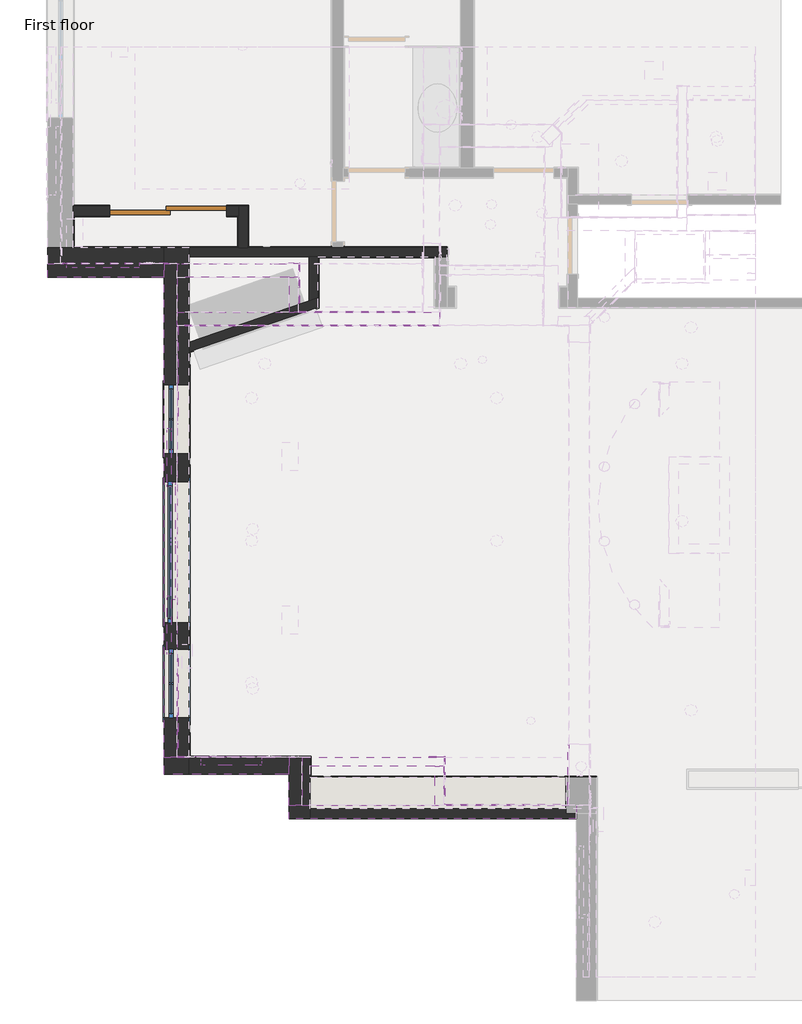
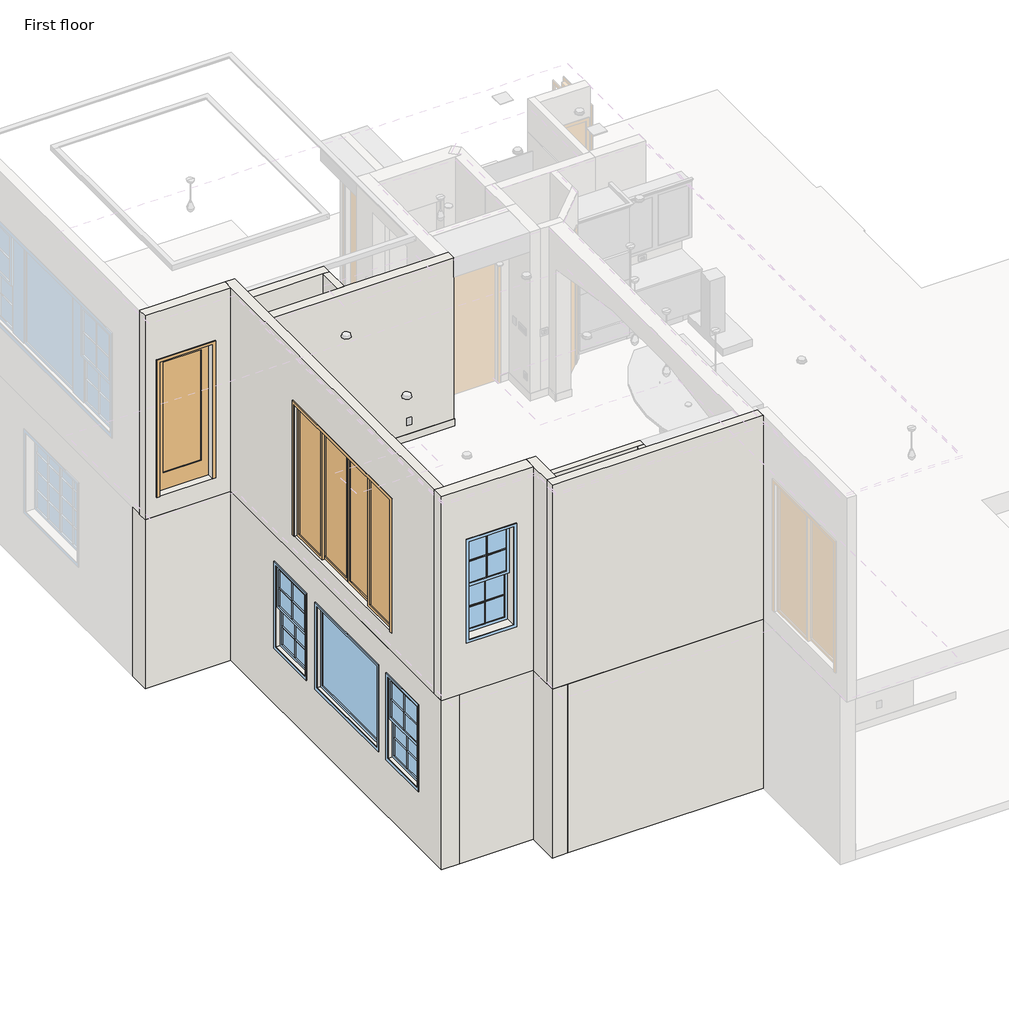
# One storey, part 1 of 14: 55 walls, 4 windows, 3 doors.
"""IFC4 building model written with IfcOpenShell, lengths in millimetres."""

from ifc_helpers import new_model, si_unit, frame, origin, origin_with_axes, place, context, project, spatial, polyline, outline, extrude, faceted_brep, transform, mapped, element, save
from components import door_78e68b44, door_06ff4b2b, door_72025155, window_5e81ba09, window_08d0ea66, window_1576a52d, window_3ec4ada6

model = new_model("IFC4")

# Units and contexts
model_context = context("Model", 3, world=origin())
ifc_project = project(units=[si_unit("LENGTHUNIT", "METRE", prefix="MILLI")], contexts=[model_context])

# Site, building, storey
site = spatial("IfcSite", under=ifc_project)
building = spatial("IfcBuilding", under=site)
storey = spatial("IfcBuildingStorey", under=building, Name="First floor", Elevation=0.0)

# Doors
placement = place(None, origin())
door_shape = door_78e68b44(model_context)
element("IfcDoor", 1, ObjectType="Door_2 : 3'-0\" X 8'-0\"", at=placement, inside=storey, context=model_context, shape_type="MappedRepresentation", body=[
    mapped(door_shape, transform((-5962.65, 9547.225, 3251.2), x_axis=(-1.0, 0.0, 0.0), y_axis=(0.0, -1.0, 0.0), z_axis=(0.0, 0.0, 1.0))),
])
door_2_shape = door_06ff4b2b(model_context)
element("IfcDoor", 2, ObjectType="Door_3 : 9'-4\" X 7'-10\"", at=placement, inside=storey, context=model_context, shape_type="MappedRepresentation", body=[
    mapped(door_2_shape, transform((-4984.75, 6134.1, 3251.2), x_axis=(0.0, 1.0, 0.0), y_axis=(-1.0, 0.0, 0.0), z_axis=(0.0, 0.0, 1.0))),
])
door_3_shape = door_72025155(model_context)
element("IfcDoor", 3, ObjectType="Door_7 : 4'-10\" X 8'-0\"", at=placement, inside=storey, context=model_context, shape_type="MappedRepresentation", body=[
    mapped(door_3_shape, transform((-5143.5, 10420.35, 0.0), x_axis=(1.0, 0.0, 0.0), y_axis=(0.0, 1.0, 0.0), z_axis=(0.0, 0.0, 1.0))),
])

# Walls
element("IfcWall", 4, ObjectType="Wall Border_T1", at=placement, inside=storey, context=model_context, shape_type="Brep", body=[
    faceted_brep([(-3352.8000001, 3174.9999999, 0.0), (-3352.8000001, 3174.9999999, 127.0), (-3340.1000001, 3174.9999999, 127.0), (254.0000001, 3174.9999999, 127.0), (254.0000001, 3174.9999999, 0.0), (-3340.1000001, 3174.9999999, 0.0), (-3352.8000001, 3162.2999999, 127.0), (-3352.8000001, 3162.2999999, 0.0), (254.0000001, 3162.2999999, 0.0), (254.0000001, 3162.2999999, 127.0)], [[[0, 1, 2, 3, 4, 5]], [[6, 7, 8, 9]], [[7, 0, 5, 4, 8]], [[1, 0, 7, 6]], [[1, 6, 9, 3, 2]], [[4, 3, 9, 8]]]),
])
element("IfcWall", 5, ObjectType="Wall Border_T1", at=placement, inside=storey, context=model_context, shape_type="SweptSolid", body=[
    extrude(outline(polyline([(-3340.1000001, 3174.9999999), (-3352.8000001, 3174.9999999), (-3352.8000001, 3416.2999999), (-3340.1000001, 3416.2999999), (-3340.1000001, 3174.9999999)])), origin_with_axes(), (0.0, 0.0, 1.0), 127.0),
])
element("IfcWall", 6, ObjectType="Wall Border_T1", at=placement, inside=storey, context=model_context, shape_type="Brep", body=[
    faceted_brep([(-3340.1000001, 3428.9999999, 0.0), (-4864.1000001, 3428.9999999, 0.0), (-4864.1000001, 3428.9999999, 127.0), (-3340.1000001, 3428.9999999, 127.0), (-3340.1000001, 3416.2999999, 0.0), (-3340.1000001, 3416.2999999, 127.0), (-3352.8000001, 3416.2999999, 127.0), (-4864.1000001, 3416.2999999, 127.0), (-4864.1000001, 3416.2999999, 0.0), (-3352.8000001, 3416.2999999, 0.0)], [[[0, 1, 2, 3]], [[4, 5, 6, 7, 8, 9]], [[1, 0, 4, 9, 8]], [[2, 1, 8, 7]], [[3, 2, 7, 6, 5]], [[0, 3, 5, 4]]]),
])
element("IfcWall", 7, ObjectType="Wall Border_T1", at=placement, inside=storey, context=model_context, shape_type="SweptSolid", body=[
    extrude(outline(polyline([(-1790.7, 9702.8), (-3238.5, 9702.8), (-3238.5, 9715.5), (-1790.7, 9715.5), (-1790.7, 9702.8)])), origin_with_axes(), (0.0, 0.0, 1.0), 127.0),
])
element("IfcWall", 8, ObjectType="Wall Border_T1", at=placement, inside=storey, context=model_context, shape_type="SweptSolid", body=[
    extrude(outline(polyline([(-2921.0, 9842.5), (-1625.6, 9842.5), (-1625.6, 9829.8), (-2921.0, 9829.8), (-2921.0, 9842.5)])), origin_with_axes(), (0.0, 0.0, 1.0), 127.0),
])
element("IfcWall", 9, ObjectType="Wall Border_T1", at=placement, inside=storey, context=model_context, shape_type="Brep", body=[
    faceted_brep([(-2921.0, 9829.8, 0.0), (-2921.0, 9842.5, 0.0), (-2921.0, 9855.2, 0.0), (-2921.0, 9855.2, 127.0), (-2921.0, 9842.5, 127.0), (-2921.0, 9829.8, 127.0), (-2933.7, 9829.8, 0.0), (-2933.7, 9829.8, 127.0), (-2933.7, 9855.2, 127.0), (-2933.7, 9855.2, 0.0)], [[[0, 1, 2, 3, 4, 5]], [[6, 7, 8, 9]], [[2, 1, 0, 6, 9]], [[3, 2, 9, 8]], [[5, 4, 3, 8, 7]], [[0, 5, 7, 6]]]),
])
element("IfcWall", 10, ObjectType="Wall Border_T1", at=placement, inside=storey, context=model_context, shape_type="Brep", body=[
    faceted_brep([(-3251.2, 9715.5, 0.0), (-3251.2, 9080.5, 0.0), (-3251.2, 9080.5, 127.0), (-3251.2, 9715.5, 127.0), (-3238.5, 9715.5, 0.0), (-3238.5, 9715.5, 127.0), (-3238.5, 9702.8, 127.0), (-3238.5, 9084.865625, 127.0), (-3238.5, 9084.865625, 0.0), (-3238.5, 9702.8, 0.0)], [[[0, 1, 2, 3]], [[4, 5, 6, 7, 8, 9]], [[1, 0, 4, 9, 8]], [[3, 2, 7, 6, 5]], [[0, 3, 5, 4]], [[2, 1, 8, 7]]]),
])
element("IfcWall", 11, ObjectType="Wall Border_T1", at=placement, inside=storey, context=model_context, shape_type="Brep", body=[
    faceted_brep([(-3238.5, 9084.865625, 0.0), (-3251.2, 9080.5, 0.0), (-3281.2137633, 9070.1827689, 0.0), (-3281.2137633, 9070.1827689, 127.0), (-3251.2, 9080.5, 127.0), (-3238.5, 9084.865625, 127.0), (-3238.5, 9071.4362288, 0.0), (-3238.5, 9071.4362288, 127.0), (-3277.0852503, 9058.172549, 127.0), (-3277.0852503, 9058.172549, 0.0)], [[[0, 1, 2, 3, 4, 5]], [[6, 7, 8, 9]], [[2, 1, 0, 6, 9]], [[3, 2, 9, 8]], [[5, 4, 3, 8, 7]], [[0, 5, 7, 6]]]),
])
element("IfcWall", 12, ObjectType="Wall Border_T1", at=placement, inside=storey, context=model_context, shape_type="Brep", body=[
    faceted_brep([(-4818.5218992, 8541.7330972, 0.0), (-4876.8, 8521.7, 0.0), (-4876.8, 8521.7, 127.0), (-4818.5218992, 8541.7330972, 127.0), (-4814.3933861, 8529.7228773, 0.0), (-4814.3933861, 8529.7228773, 127.0), (-4864.1, 8512.6362288, 127.0), (-4876.8, 8508.2706038, 127.0), (-4876.8, 8508.2706038, 0.0), (-4864.1, 8512.6362288, 0.0)], [[[0, 1, 2, 3]], [[4, 5, 6, 7, 8, 9]], [[1, 0, 4, 9, 8]], [[3, 2, 7, 6, 5]], [[0, 3, 5, 4]], [[2, 1, 8, 7]]]),
])
element("IfcWall", 13, ObjectType="Wall Border_T1", at=placement, inside=storey, context=model_context, shape_type="Brep", body=[
    faceted_brep([(-4876.8, 3416.3, 0.0), (-4876.8, 3416.3, 127.0), (-4876.8, 8508.2706038, 127.0), (-4876.8, 8508.2706038, 0.0), (-4864.1, 3416.3, 127.0), (-4864.1, 3416.3, 0.0), (-4864.1, 3428.9999999, 0.0), (-4864.1, 8512.6362288, 0.0), (-4864.1, 8512.6362288, 127.0), (-4864.1, 3428.9999999, 127.0)], [[[0, 1, 2, 3]], [[4, 5, 6, 7, 8, 9]], [[5, 0, 3, 7, 6]], [[1, 4, 9, 8, 2]], [[1, 0, 5, 4]], [[3, 2, 8, 7]]]),
])
element("IfcWall", 14, ObjectType="Wall Border_T1", at=placement, inside=storey, context=model_context, shape_type="Brep", body=[
    faceted_brep([(-4254.5, 9829.8, 0.0), (-4254.5, 9829.8, 127.0), (-6324.6, 9829.8, 127.0), (-6324.6, 9829.8, 0.0), (-4254.5, 9842.5, 127.0), (-4254.5, 9842.5, 0.0), (-4267.2, 9842.5, 0.0), (-6324.6, 9842.5, 0.0), (-6324.6, 9842.5, 127.0), (-4267.2, 9842.5, 127.0)], [[[0, 1, 2, 3]], [[4, 5, 6, 7, 8, 9]], [[5, 0, 3, 7, 6]], [[1, 4, 9, 8, 2]], [[1, 0, 5, 4]], [[3, 2, 8, 7]]]),
])
element("IfcWall", 15, ObjectType="Wall Border_T1", at=placement, inside=storey, context=model_context, shape_type="SweptSolid", body=[
    extrude(outline(polyline([(-4267.2, 10223.5), (-4254.5, 10223.5), (-4254.5, 9842.5), (-4267.2, 9842.5), (-4267.2, 10223.5)])), origin_with_axes(), (0.0, 0.0, 1.0), 127.0),
])
element("IfcWall", 16, ObjectType="Wall Border_T1", at=placement, inside=storey, context=model_context, shape_type="Brep", body=[
    faceted_brep([(-4349.75, 10223.5, 0.0), (-4267.2, 10223.5, 0.0), (-4254.5, 10223.5, 0.0), (-4254.5, 10223.5, 127.0), (-4267.2, 10223.5, 127.0), (-4349.75, 10223.5, 127.0), (-4349.75, 10236.2, 0.0), (-4349.75, 10236.2, 127.0), (-4254.5, 10236.2, 127.0), (-4254.5, 10236.2, 0.0)], [[[0, 1, 2, 3, 4, 5]], [[6, 7, 8, 9]], [[2, 1, 0, 6, 9]], [[5, 4, 3, 8, 7]], [[0, 5, 7, 6]], [[3, 2, 9, 8]]]),
])
element("IfcWall", 17, ObjectType="Wall Border_T1", at=placement, inside=storey, context=model_context, shape_type="SweptSolid", body=[
    extrude(outline(polyline([(-6324.6, 10236.2), (-5937.25, 10236.2), (-5937.25, 10223.5), (-6324.6, 10223.5), (-6324.6, 10236.2)])), origin_with_axes(), (0.0, 0.0, 1.0), 127.0),
])
element("IfcWall", 18, ObjectType="Wall Border_T1", at=placement, inside=storey, context=model_context, shape_type="SweptSolid", body=[
    extrude(outline(polyline([(-5930.9, 10350.5), (-6324.6, 10350.5), (-6324.6, 10363.2), (-5930.9, 10363.2), (-5930.9, 10350.5)])), origin_with_axes(), (0.0, 0.0, 1.0), 127.0),
])
element("IfcWall", 19, ObjectType="Wall Border_T1", at=placement, inside=storey, context=model_context, shape_type="Brep", body=[
    faceted_brep([(-6337.3, 10236.2, 0.0), (-6337.3, 9829.8, 0.0), (-6337.3, 9829.8, 127.0), (-6337.3, 10236.2, 127.0), (-6324.6, 10236.2, 0.0), (-6324.6, 10236.2, 127.0), (-6324.6, 10223.5, 127.0), (-6324.6, 9842.5, 127.0), (-6324.6, 9829.8, 127.0), (-6324.6, 9829.8, 0.0), (-6324.6, 9842.5, 0.0), (-6324.6, 10223.5, 0.0)], [[[0, 1, 2, 3]], [[4, 5, 6, 7, 8, 9, 10, 11]], [[1, 0, 4, 11, 10, 9]], [[2, 1, 9, 8]], [[3, 2, 8, 7, 6, 5]], [[0, 3, 5, 4]]]),
])
element("IfcWall", 20, ObjectType="Wall Border_T1", at=placement, inside=storey, context=model_context, shape_type="SweptSolid", body=[
    extrude(outline(polyline([(-3086.1, 9855.2), (-3073.4, 9855.2), (-3073.4, 9842.5), (-3086.1, 9842.5), (-3086.1, 9855.2)])), origin_with_axes(), (0.0, 0.0, 1.0), 127.0),
])
element("IfcWall", 21, ObjectType="Wall Border_T1", at=placement, inside=storey, context=model_context, shape_type="Brep", body=[
    faceted_brep([(-3073.4, 9842.5, 127.0), (-3073.4, 9842.5, 0.0), (-3086.1, 9842.5, 0.0), (-4127.5, 9842.5, 0.0), (-4127.5, 9842.5, 127.0), (-3086.1, 9842.5, 127.0), (-3073.4, 9829.8, 0.0), (-3073.4, 9829.8, 127.0), (-4127.5, 9829.8, 127.0), (-4127.5, 9829.8, 0.0)], [[[0, 1, 2, 3, 4, 5]], [[6, 7, 8, 9]], [[1, 6, 9, 3, 2]], [[7, 0, 5, 4, 8]], [[1, 0, 7, 6]], [[4, 3, 9, 8]]]),
])
element("IfcWall", 22, ObjectType="Wall Border_T1", at=placement, inside=storey, context=model_context, shape_type="Brep", body=[
    faceted_brep([(-4127.5, 9829.8, 0.0), (-4127.5, 9842.5, 0.0), (-4127.5, 10350.5, 0.0), (-4127.5, 10350.5, 127.0), (-4127.5, 9842.5, 127.0), (-4127.5, 9829.8, 127.0), (-4140.2, 9829.8, 0.0), (-4140.2, 9829.8, 127.0), (-4140.2, 10350.5, 127.0), (-4140.2, 10350.5, 0.0)], [[[0, 1, 2, 3, 4, 5]], [[6, 7, 8, 9]], [[2, 1, 0, 6, 9]], [[3, 2, 9, 8]], [[5, 4, 3, 8, 7]], [[0, 5, 7, 6]]]),
])
element("IfcWall", 23, ObjectType="Wall Border_T1", at=placement, inside=storey, context=model_context, shape_type="Brep", body=[
    faceted_brep([(-4127.5, 10363.2, 0.0), (-4356.1, 10363.2, 0.0), (-4356.1, 10363.2, 127.0), (-4127.5, 10363.2, 127.0), (-4127.5, 10350.5, 0.0), (-4127.5, 10350.5, 127.0), (-4140.2, 10350.5, 127.0), (-4356.1, 10350.5, 127.0), (-4356.1, 10350.5, 0.0), (-4140.2, 10350.5, 0.0)], [[[0, 1, 2, 3]], [[4, 5, 6, 7, 8, 9]], [[1, 0, 4, 9, 8]], [[2, 1, 8, 7]], [[3, 2, 7, 6, 5]], [[0, 3, 5, 4]]]),
])
element("IfcWall", 24, ObjectType="Wall Border_T1", at=placement, inside=storey, context=model_context, shape_type="Brep", body=[
    faceted_brep([(-1936.75, 9029.7, 3251.2), (-3486.15, 9029.7, 3251.2), (-3498.85, 9029.7, 3251.2), (-3498.85, 9029.7, 3378.2), (-3486.15, 9029.7, 3378.2), (-1936.75, 9029.7, 3378.2), (-1936.75, 9017.0, 3251.2), (-1936.75, 9017.0, 3378.2), (-3498.85, 9017.0, 3378.2), (-3498.85, 9017.0, 3251.2)], [[[0, 1, 2, 3, 4, 5]], [[6, 7, 8, 9]], [[2, 1, 0, 6, 9]], [[5, 4, 3, 8, 7]], [[0, 5, 7, 6]], [[3, 2, 9, 8]]]),
])
element("IfcWall", 25, ObjectType="Wall Border_T1", at=placement, inside=storey, context=model_context, shape_type="SweptSolid", body=[
    extrude(outline(polyline([(-3486.15, 9626.6), (-3486.15, 9029.7), (-3498.85, 9029.7), (-3498.85, 9626.6), (-3486.15, 9626.6)])), frame((0.0, 0.0, 3251.2), z_axis=(0.0, 0.0, 1.0), x_axis=(1.0, 0.0, 0.0)), (0.0, 0.0, 1.0), 127.0),
])
element("IfcWall", 26, ObjectType="Wall Border_T1", at=placement, inside=storey, context=model_context, shape_type="Brep", body=[
    faceted_brep([(-3486.15, 9639.3, 3251.2), (-3625.8466234, 9639.3, 3251.2), (-3625.8466234, 9639.3, 3378.2), (-3486.15, 9639.3, 3378.2), (-3486.15, 9626.6, 3251.2), (-3486.15, 9626.6, 3378.2), (-3498.85, 9626.6, 3378.2), (-3625.8466234, 9626.6, 3378.2), (-3625.8466234, 9626.6, 3251.2), (-3498.85, 9626.6, 3251.2)], [[[0, 1, 2, 3]], [[4, 5, 6, 7, 8, 9]], [[1, 0, 4, 9, 8]], [[2, 1, 8, 7]], [[3, 2, 7, 6, 5]], [[0, 3, 5, 4]]]),
])
element("IfcWall", 27, ObjectType="Wall Border_T1", at=placement, inside=storey, context=model_context, shape_type="SweptSolid", body=[
    extrude(outline(polyline([(-6483.35, 9639.3), (-6470.65, 9639.3), (-6470.65, 9626.6), (-6483.35, 9626.6), (-6483.35, 9639.3)])), frame((0.0, 0.0, 3251.2), z_axis=(0.0, 0.0, 1.0), x_axis=(1.0, 0.0, 0.0)), (0.0, 0.0, 1.0), 127.0),
])
element("IfcWall", 28, ObjectType="Wall Border_T1", at=placement, inside=storey, context=model_context, shape_type="SweptSolid", body=[
    extrude(outline(polyline([(-5454.65, 9639.3), (-5048.2466234, 9639.3), (-5048.2466234, 9626.6), (-5454.65, 9626.6), (-5454.65, 9639.3)])), frame((0.0, 0.0, 3251.2), z_axis=(0.0, 0.0, 1.0), x_axis=(1.0, 0.0, 0.0)), (0.0, 0.0, 1.0), 127.0),
])
element("IfcWall", 29, ObjectType="Wall Border_T1", at=placement, inside=storey, context=model_context, shape_type="SweptSolid", body=[
    extrude(outline(polyline([(-101.6, 2819.4), (-101.6, 3568.7), (-88.9, 3568.7), (-88.9, 2819.4), (-101.6, 2819.4)])), frame((0.0, 0.0, 3251.2), z_axis=(0.0, 0.0, 1.0), x_axis=(1.0, 0.0, 0.0)), (0.0, 0.0, 1.0), 127.0),
])
element("IfcWall", 30, ObjectType="Wall Border_T1", at=placement, inside=storey, context=model_context, shape_type="Brep", body=[
    faceted_brep([(-88.9, 2819.4, 3251.2), (-101.6, 2819.4, 3251.2), (-1651.0, 2819.4, 3251.2), (-1663.7, 2819.4, 3251.2), (-1663.7, 2819.4, 3378.2), (-1651.0, 2819.4, 3378.2), (-101.6, 2819.4, 3378.2), (-88.9, 2819.4, 3378.2), (-88.9, 2806.7, 3251.2), (-88.9, 2806.7, 3378.2), (-1663.7, 2806.7, 3378.2), (-1663.7, 2806.7, 3251.2)], [[[0, 1, 2, 3, 4, 5, 6, 7]], [[8, 9, 10, 11]], [[3, 2, 1, 0, 8, 11]], [[7, 6, 5, 4, 10, 9]], [[4, 3, 11, 10]], [[0, 7, 9, 8]]]),
])
element("IfcWall", 31, ObjectType="Wall Border_T1", at=placement, inside=storey, context=model_context, shape_type="Brep", body=[
    faceted_brep([(-1651.0, 2819.4, 3251.2), (-1651.0, 3429.0, 3251.2), (-1651.0, 3429.0, 3378.2), (-1651.0, 2819.4, 3378.2), (-1663.7, 2819.4, 3251.2), (-1663.7, 2819.4, 3378.2), (-1663.7, 3416.3, 3378.2), (-1663.7, 3429.0, 3378.2), (-1663.7, 3429.0, 3251.2), (-1663.7, 3416.3, 3251.2)], [[[0, 1, 2, 3]], [[4, 5, 6, 7, 8, 9]], [[1, 0, 4, 9, 8]], [[3, 2, 7, 6, 5]], [[0, 3, 5, 4]], [[2, 1, 8, 7]]]),
])
element("IfcWall", 32, ObjectType="Wall Border_T1", at=placement, inside=storey, context=model_context, shape_type="SweptSolid", body=[
    extrude(outline(polyline([(-1854.2, 3429.0), (-1663.7, 3429.0), (-1663.7, 3416.3), (-1854.2, 3416.3), (-1854.2, 3429.0)])), frame((0.0, 0.0, 3251.2), z_axis=(0.0, 0.0, 1.0), x_axis=(1.0, 0.0, 0.0)), (0.0, 0.0, 1.0), 127.0),
])
element("IfcWall", 33, ObjectType="Wall Border_T1", at=placement, inside=storey, context=model_context, shape_type="SweptSolid", body=[
    extrude(outline(polyline([(-4806.95, 3429.0), (-3619.5, 3429.0), (-3619.5, 3416.3), (-4806.95, 3416.3), (-4806.95, 3429.0)])), frame((0.0, 0.0, 3251.2), z_axis=(0.0, 0.0, 1.0), x_axis=(1.0, 0.0, 0.0)), (0.0, 0.0, 1.0), 127.0),
])
element("IfcWall", 34, ObjectType="Wall Border_T1", at=placement, inside=storey, context=model_context, shape_type="SweptSolid", body=[
    extrude(outline(polyline([(-5029.2, 3429.0), (-4806.95, 3429.0), (-4806.95, 3416.3), (-5029.2, 3416.3), (-5029.2, 3429.0)])), frame((0.0, 0.0, 3251.2), z_axis=(0.0, 0.0, 1.0), x_axis=(1.0, 0.0, 0.0)), (0.0, 0.0, 1.0), 127.0),
])
element("IfcWall", 35, ObjectType="Wall Border_T1", at=placement, inside=storey, context=model_context, shape_type="SweptSolid", body=[
    extrude(outline(polyline([(-5016.5, 4660.9), (-5016.5, 3429.0), (-5029.2, 3429.0), (-5029.2, 4660.9), (-5016.5, 4660.9)])), frame((0.0, 0.0, 3251.2), z_axis=(0.0, 0.0, 1.0), x_axis=(1.0, 0.0, 0.0)), (0.0, 0.0, 1.0), 127.0),
])
element("IfcWall", 36, ObjectType="Wall Border_T1", at=placement, inside=storey, context=model_context, shape_type="Brep", body=[
    faceted_brep([(-5016.5, 8839.2, 3251.2), (-1708.15, 8839.2, 3251.2), (-1708.15, 8839.2, 3378.2), (-5016.5, 8839.2, 3378.2), (-5016.5, 8851.9, 3251.2), (-5016.5, 8851.9, 3378.2), (-1720.85, 8851.9, 3378.2), (-1708.15, 8851.9, 3378.2), (-1708.15, 8851.9, 3251.2), (-1720.85, 8851.9, 3251.2)], [[[0, 1, 2, 3]], [[4, 5, 6, 7, 8, 9]], [[1, 0, 4, 9, 8]], [[3, 2, 7, 6, 5]], [[0, 3, 5, 4]], [[2, 1, 8, 7]]]),
])
element("IfcWall", 37, ObjectType="Wall Border_T1", at=placement, inside=storey, context=model_context, shape_type="Brep", body=[
    faceted_brep([(-5016.5, 7607.3, 3251.2), (-5016.5, 8839.2, 3251.2), (-5016.5, 8851.9, 3251.2), (-5016.5, 8851.9, 3378.2), (-5016.5, 8839.2, 3378.2), (-5016.5, 7607.3, 3378.2), (-5029.2, 7607.3, 3251.2), (-5029.2, 7607.3, 3378.2), (-5029.2, 8851.9, 3378.2), (-5029.2, 8851.9, 3251.2)], [[[0, 1, 2, 3, 4, 5]], [[6, 7, 8, 9]], [[2, 1, 0, 6, 9]], [[5, 4, 3, 8, 7]], [[0, 5, 7, 6]], [[3, 2, 9, 8]]]),
])
element("IfcWall", 38, ObjectType="Wall_1' 2 1/2\"", at=placement, inside=storey, context=model_context, shape_type="Brep", body=[
    faceted_brep([(-5194.3, 9829.8, 2908.3), (-5194.3, 9829.8, -152.4), (-6337.3, 9829.8, -152.4), (-6661.15, 9829.8, -152.4), (-6661.15, 9829.8, 2908.3), (-6337.3, 9829.8, 2908.3), (-5194.3, 9461.5, -152.4), (-5194.3, 9461.5, 2908.3), (-6661.15, 9461.5, 2908.3), (-6661.15, 9461.5, -152.4)], [[[0, 1, 2, 3, 4, 5]], [[6, 7, 8, 9]], [[3, 2, 1, 6, 9]], [[0, 5, 4, 8, 7]], [[4, 3, 9, 8]], [[0, 7, 6, 1]]]),
])
element("IfcWall", 39, ObjectType="Wall_1' 3 1/2\"", at=placement, inside=storey, context=model_context, shape_type="SweptSolid", body=[
    extrude(outline(polyline([(-3352.8, 3162.3), (-127.0, 3162.3), (-127.0, 2768.6), (-3352.8, 2768.6), (-3352.8, 3162.3)])), origin_with_axes(), (0.0, 0.0, 1.0), 762.0),
])
element("IfcWall", 40, ObjectType="Wall_1'1/2\"", at=placement, inside=storey, context=model_context, shape_type="Brep", body=[
    faceted_brep([(-5194.3, 9829.8, 2908.3), (-5194.3, 9829.8, -152.4), (-5194.3, 9461.5, -152.4), (-5194.3, 3200.4, -152.4), (-5194.3, 3200.4, 2908.3), (-5194.3, 9461.5, 2908.3), (-5194.3, 3911.6, 2387.6), (-5194.3, 3911.6, 914.4), (-5194.3, 4775.2, 914.4), (-5194.3, 4775.2, 2387.6), (-5194.3, 6883.4, 2387.6), (-5194.3, 5105.4, 2387.6), (-5194.3, 5105.4, 914.4), (-5194.3, 6883.4, 914.4), (-5194.3, 8102.6, 2387.6), (-5194.3, 7239.0, 2387.6), (-5194.3, 7239.0, 914.4), (-5194.3, 8102.6, 914.4), (-4876.8, 9829.8, -152.4), (-4876.8, 9829.8, 0.0), (-4876.8, 9829.8, 2565.4), (-4876.8, 9829.8, 2908.3), (-4876.8, 3416.3, 2908.3), (-4876.8, 3200.4, 2908.3), (-4876.8, 3200.4, -152.4), (-4876.8, 3416.3, -152.4), (-4876.8, 3911.6, 2387.6), (-4876.8, 4775.2, 2387.6), (-4876.8, 4775.2, 914.4), (-4876.8, 3911.6, 914.4), (-4876.8, 6883.4, 2387.6), (-4876.8, 6883.4, 914.4), (-4876.8, 5105.4, 914.4), (-4876.8, 5105.4, 2387.6), (-4876.8, 8102.6, 2387.6), (-4876.8, 8102.6, 914.4), (-4876.8, 7239.0, 914.4), (-4876.8, 7239.0, 2387.6)], [[[0, 1, 2, 3, 4, 5], [6, 7, 8, 9], [10, 11, 12, 13], [14, 15, 16, 17]], [[18, 19, 20, 21, 22, 23, 24, 25], [26, 27, 28, 29], [30, 31, 32, 33], [34, 35, 36, 37]], [[3, 2, 1, 18, 25, 24]], [[0, 5, 4, 23, 22, 21]], [[4, 3, 24, 23]], [[7, 6, 26, 29]], [[8, 7, 29, 28]], [[9, 8, 28, 27]], [[6, 9, 27, 26]], [[31, 30, 10, 13]], [[32, 31, 13, 12]], [[33, 32, 12, 11]], [[30, 33, 11, 10]], [[35, 34, 14, 17]], [[36, 35, 17, 16]], [[37, 36, 16, 15]], [[34, 37, 15, 14]], [[0, 21, 20, 19, 18, 1]]]),
])
element("IfcWall", 41, ObjectType="Wall_10.5\"", at=placement, inside=storey, context=model_context, shape_type="Brep", body=[
    faceted_brep([(-3352.8, 2641.6, -152.4), (-3352.8, 2768.6, -152.4), (-3352.8, 3416.3, -152.4), (-3352.8, 3416.3, 2908.3), (-3352.8, 2768.6, 2908.3), (-3352.8, 2641.6, 2908.3), (-3619.5, 2641.6, -152.4), (-3619.5, 2641.6, 2908.3), (-3619.5, 3200.4, 2908.3), (-3619.5, 3416.3, 2908.3), (-3619.5, 3416.3, -152.4), (-3619.5, 3200.4, -152.4)], [[[0, 1, 2, 3, 4, 5]], [[6, 7, 8, 9, 10, 11]], [[2, 1, 0, 6, 11, 10]], [[5, 4, 3, 9, 8, 7]], [[0, 5, 7, 6]], [[3, 2, 10, 9]]]),
])
element("IfcWall", 42, ObjectType="Wall_4.5\"", at=placement, inside=storey, context=model_context, shape_type="Brep", body=[
    faceted_brep([(-3454.4, 3302.0, 3251.2), (-1778.0, 3302.0, 3251.2), (-1663.7, 3302.0, 3251.2), (-1663.7, 3302.0, 6261.1), (-3454.4, 3302.0, 6261.1), (-2247.9, 3302.0, 4292.6), (-2247.9, 3302.0, 3530.6), (-3238.5, 3302.0, 3530.6), (-3238.5, 3302.0, 4292.6), (-1663.7, 3416.3, 3251.2), (-3454.4, 3416.3, 3251.2), (-3454.4, 3416.3, 6261.1), (-1663.7, 3416.3, 6261.1), (-1663.7, 3416.3, 5956.3), (-2247.9, 3416.3, 3530.6), (-2247.9, 3416.3, 4292.6), (-3238.5, 3416.3, 4292.6), (-3238.5, 3416.3, 3530.6)], [[[0, 1, 2, 3, 4], [5, 6, 7, 8]], [[9, 10, 11, 12, 13], [14, 15, 16, 17]], [[2, 1, 0, 10, 9]], [[10, 0, 4, 11]], [[2, 9, 13, 12, 3]], [[14, 6, 5, 15]], [[15, 5, 8, 16]], [[16, 8, 7, 17]], [[6, 14, 17, 7]], [[4, 3, 12, 11]]]),
])
element("IfcWall", 43, ObjectType="Wall_4.5\"", at=placement, inside=storey, context=model_context, shape_type="Brep", body=[
    faceted_brep([(-1778.0, 3302.0, 3251.2), (-1778.0, 2806.7, 3251.2), (-1778.0, 2806.7, 6261.1), (-1778.0, 3302.0, 6261.1), (-1663.7, 2806.7, 3251.2), (-1663.7, 2819.4, 3251.2), (-1663.7, 3302.0, 3251.2), (-1663.7, 3302.0, 6261.1), (-1663.7, 2806.7, 6261.1), (-1663.7, 2806.7, 3378.2)], [[[0, 1, 2, 3]], [[4, 5, 6, 7, 8, 9]], [[1, 0, 6, 5, 4]], [[6, 0, 3, 7]], [[1, 4, 9, 8, 2]], [[3, 2, 8, 7]]]),
])
element("IfcWall", 44, ObjectType="Wall_4.5\"", at=placement, inside=storey, context=model_context, shape_type="SweptSolid", body=[
    extrude(outline(polyline([(-3613.15, 9017.0), (-3613.15, 9461.5), (-3498.85, 9461.5), (-3498.85, 9017.0), (-3613.15, 9017.0)])), frame((0.0, 0.0, 3251.2), z_axis=(0.0, 0.0, 1.0), x_axis=(1.0, 0.0, 0.0)), (0.0, 0.0, 1.0), 3048.0),
])
element("IfcWall", 45, ObjectType="Wall_4.5\"", at=placement, inside=storey, context=model_context, shape_type="Brep", body=[
    faceted_brep([(-3251.2, 9201.3645656, 0.0), (-3365.5, 9162.0739406, 0.0), (-4876.8, 8642.5645656, 0.0), (-4876.8, 8642.5645656, 2565.4), (-3365.5, 9162.0739406, 2565.4), (-3251.2, 9201.3645656, 2565.4), (-4525.4092581, 8763.3551331, 1060.45), (-4525.4092581, 8763.3551331, 279.4), (-3648.6632119, 9064.7365865, 279.4), (-3648.6632119, 9064.7365865, 1060.45), (-4876.8, 8521.7, 0.0), (-3251.2, 9080.5, 0.0), (-3251.2, 9080.5, 2565.4), (-4876.8, 8521.7, 2565.4), (-4488.2526406, 8655.2631548, 279.4), (-4488.2526406, 8655.2631548, 1060.45), (-3611.5065943, 8956.6446082, 1060.45), (-3611.5065943, 8956.6446082, 279.4)], [[[0, 1, 2, 3, 4, 5], [6, 7, 8, 9]], [[10, 11, 12, 13], [14, 15, 16, 17]], [[2, 1, 0, 11, 10]], [[5, 4, 3, 13, 12]], [[0, 5, 12, 11]], [[2, 10, 13, 3]], [[14, 7, 6, 15]], [[15, 6, 9, 16]], [[16, 9, 8, 17]], [[7, 14, 17, 8]]]),
])
element("IfcWall", 46, ObjectType="Wall_4.5\"", at=placement, inside=storey, context=model_context, shape_type="SweptSolid", body=[
    extrude(outline(polyline([(-3251.2, 9715.5), (-3251.2, 9201.3645656), (-3365.5, 9162.0739406), (-3365.5, 9715.5), (-3251.2, 9715.5)])), origin_with_axes(), (0.0, 0.0, 1.0), 2565.4),
])
element("IfcWall", 47, ObjectType="Wall_4.5\"", at=placement, inside=storey, context=model_context, shape_type="Brep", body=[
    faceted_brep([(-4876.8, 9715.5, 0.0), (-3365.5, 9715.5, 0.0), (-3251.2, 9715.5, 0.0), (-3238.5, 9715.5, 0.0), (-1778.0, 9715.5, 0.0), (-1625.6, 9715.5, 0.0), (-1625.6, 9715.5, 2565.4), (-1778.0, 9715.5, 2565.4), (-3251.2, 9715.5, 2565.4), (-3365.5, 9715.5, 2565.4), (-4876.8, 9715.5, 2565.4), (-4876.8, 9829.8, 0.0), (-4876.8, 9829.8, 2565.4), (-4254.5, 9829.8, 2565.4), (-4140.2, 9829.8, 2565.4), (-3073.4, 9829.8, 2565.4), (-2933.7, 9829.8, 2565.4), (-1625.6, 9829.8, 2565.4), (-1625.6, 9829.8, 0.0), (-2933.7, 9829.8, 0.0), (-3073.4, 9829.8, 0.0), (-4140.2, 9829.8, 0.0), (-4254.5, 9829.8, 0.0)], [[[0, 1, 2, 3, 4, 5, 6, 7, 8, 9, 10]], [[11, 12, 13, 14, 15, 16, 17, 18, 19, 20, 21, 22]], [[5, 4, 3, 2, 1, 0, 11, 22, 21, 20, 19, 18]], [[10, 9, 8, 7, 6, 17, 16, 15, 14, 13, 12]], [[0, 10, 12, 11]], [[6, 5, 18, 17]]]),
])
element("IfcWall", 48, ObjectType="Wall_4.5\"", at=placement, inside=storey, context=model_context, shape_type="Brep", body=[
    faceted_brep([(-4140.2, 9829.8, 2565.4), (-4140.2, 9829.8, 0.0), (-4140.2, 10350.5, 0.0), (-4140.2, 10350.5, 2565.4), (-4254.5, 9829.8, 0.0), (-4254.5, 9829.8, 127.0), (-4254.5, 9829.8, 2565.4), (-4254.5, 10236.2, 2565.4), (-4254.5, 10350.5, 2565.4), (-4254.5, 10350.5, 0.0), (-4254.5, 10236.2, 0.0), (-4254.5, 10223.5, 0.0), (-4254.5, 9842.5, 0.0)], [[[0, 1, 2, 3]], [[4, 5, 6, 7, 8, 9, 10, 11, 12]], [[2, 1, 4, 12, 11, 10, 9]], [[0, 3, 8, 7, 6]], [[0, 6, 5, 4, 1]], [[2, 9, 8, 3]]]),
])
element("IfcWall", 49, ObjectType="Wall_4.5\"", at=placement, inside=storey, context=model_context, shape_type="Brep", body=[
    faceted_brep([(-4254.5, 10350.5, 0.0), (-4406.9, 10350.5, 0.0), (-4406.9, 10350.5, 2438.4), (-5880.1, 10350.5, 2438.4), (-5880.1, 10350.5, 0.0), (-6337.3, 10350.5, 0.0), (-6337.3, 10350.5, 2565.4), (-4254.5, 10350.5, 2565.4), (-4406.9, 10236.2, 2438.4), (-4406.9, 10236.2, 0.0), (-4254.5, 10236.2, 0.0), (-4254.5, 10236.2, 2565.4), (-6337.3, 10236.2, 2565.4), (-6337.3, 10236.2, 127.0), (-6337.3, 10236.2, 0.0), (-6324.6, 10236.2, 0.0), (-5880.1, 10236.2, 0.0), (-5880.1, 10236.2, 2438.4)], [[[0, 1, 2, 3, 4, 5, 6, 7]], [[8, 9, 10, 11, 12, 13, 14, 15, 16, 17]], [[10, 9, 1, 0]], [[16, 15, 14, 5, 4]], [[7, 6, 12, 11]], [[0, 7, 11, 10]], [[6, 5, 14, 13, 12]], [[4, 3, 17, 16]], [[2, 1, 9, 8]], [[3, 2, 8, 17]]]),
])
element("IfcWall", 50, ObjectType="Wall_5\"", at=placement, inside=storey, context=model_context, shape_type="Brep", body=[
    faceted_brep([(-127.0, 2768.6, -152.4), (-3352.8, 2768.6, -152.4), (-3352.8, 2768.6, 2908.3), (-127.0, 2768.6, 2908.3), (-127.0, 2768.6, 2565.4), (-127.0, 2768.6, 0.0), (0.0176056, 2641.6, -152.4), (0.0176056, 2641.6, 2908.3), (-3352.8, 2641.6, 2908.3), (-3352.8, 2641.6, -152.4), (-127.0, 2705.1, -152.4), (0.0176056, 2705.1, -152.4), (0.0176056, 2705.1, 2908.3), (-127.0, 2705.1, 2908.3)], [[[0, 1, 2, 3, 4, 5]], [[6, 7, 8, 9]], [[1, 0, 10, 11, 6, 9]], [[3, 2, 8, 7, 12, 13]], [[2, 1, 9, 8]], [[0, 5, 4, 3, 13, 10]], [[13, 12, 11, 10]], [[12, 7, 6, 11]]]),
])
element("IfcWall", 51, ObjectType="Wall_6.5\"", at=placement, inside=storey, context=model_context, shape_type="Brep", body=[
    faceted_brep([(0.0, 2806.7, 6604.0), (0.0, 2806.7, 2908.3), (-3454.4, 2806.7, 2908.3), (-3619.5, 2806.7, 2908.3), (-3619.5, 2806.7, 6604.0), (-3454.4, 2806.7, 6604.0), (0.0, 2641.6, 2908.3), (0.0, 2641.6, 6604.0), (-3619.5, 2641.6, 6604.0), (-3619.5, 2641.6, 2908.3)], [[[0, 1, 2, 3, 4, 5]], [[6, 7, 8, 9]], [[3, 2, 1, 6, 9]], [[0, 5, 4, 8, 7]], [[4, 3, 9, 8]], [[0, 7, 6, 1]]]),
])
element("IfcWall", 52, ObjectType="Wall_6.5\"", at=placement, inside=storey, context=model_context, shape_type="Brep", body=[
    faceted_brep([(-3454.4, 2806.7, 2908.3), (-3454.4, 3416.3, 2908.3), (-3454.4, 3416.3, 3251.2), (-3454.4, 3416.3, 6299.2), (-3454.4, 3416.3, 6604.0), (-3454.4, 2806.7, 6604.0), (-3619.5, 2806.7, 2908.3), (-3619.5, 2806.7, 6604.0), (-3619.5, 3200.4, 6604.0), (-3619.5, 3416.3, 6604.0), (-3619.5, 3416.3, 2908.3), (-3619.5, 3200.4, 2908.3)], [[[0, 1, 2, 3, 4, 5]], [[6, 7, 8, 9, 10, 11]], [[1, 0, 6, 11, 10]], [[5, 4, 9, 8, 7]], [[0, 5, 7, 6]], [[1, 10, 9, 4, 3, 2]]]),
])
element("IfcWall", 53, ObjectType="Wall_6.5\"", at=placement, inside=storey, context=model_context, shape_type="Brep", body=[
    faceted_brep([(-5029.2, 3416.3, 2908.3), (-5029.2, 9626.6, 2908.3), (-5029.2, 9626.6, 3251.2), (-5029.2, 9626.6, 6299.2), (-5029.2, 9626.6, 6604.0), (-5029.2, 3416.3, 6604.0), (-5029.2, 3416.3, 3378.2), (-5029.2, 3416.3, 3251.2), (-5029.2, 4711.7, 5638.8), (-5029.2, 7556.5, 5638.8), (-5029.2, 7556.5, 3251.2), (-5029.2, 4711.7, 3251.2), (-5194.3, 3416.3, 2908.3), (-5194.3, 3416.3, 6604.0), (-5194.3, 9461.5, 6604.0), (-5194.3, 9626.6, 6604.0), (-5194.3, 9626.6, 2908.3), (-5194.3, 9461.5, 2908.3), (-5194.3, 4711.7, 5638.8), (-5194.3, 4711.7, 3251.2), (-5194.3, 7556.5, 3251.2), (-5194.3, 7556.5, 5638.8)], [[[0, 1, 2, 3, 4, 5, 6, 7], [8, 9, 10, 11]], [[12, 13, 14, 15, 16, 17], [18, 19, 20, 21]], [[1, 0, 12, 17, 16]], [[5, 4, 15, 14, 13]], [[0, 7, 6, 5, 13, 12]], [[1, 16, 15, 4, 3, 2]], [[21, 20, 10, 9]], [[20, 19, 11, 10]], [[19, 18, 8, 11]], [[18, 21, 9, 8]]]),
])
element("IfcWall", 54, ObjectType="Wall_6.5\"", at=placement, inside=storey, context=model_context, shape_type="Brep", body=[
    faceted_brep([(-5194.3, 9626.6, 2908.3), (-6496.05, 9626.6, 2908.3), (-6661.15, 9626.6, 2908.3), (-6661.15, 9626.6, 6604.0), (-6496.05, 9626.6, 6604.0), (-5194.3, 9626.6, 6604.0), (-6419.85, 9626.6, 5689.6), (-6419.85, 9626.6, 3251.2), (-5505.45, 9626.6, 3251.2), (-5505.45, 9626.6, 5689.6), (-6661.15, 9461.5, 2908.3), (-5194.3, 9461.5, 2908.3), (-5194.3, 9461.5, 6604.0), (-6661.15, 9461.5, 6604.0), (-6419.85, 9461.5, 3251.2), (-6419.85, 9461.5, 5689.6), (-5505.45, 9461.5, 5689.6), (-5505.45, 9461.5, 3251.2)], [[[0, 1, 2, 3, 4, 5], [6, 7, 8, 9]], [[10, 11, 12, 13], [14, 15, 16, 17]], [[2, 1, 0, 11, 10]], [[5, 4, 3, 13, 12]], [[3, 2, 10, 13]], [[14, 7, 6, 15]], [[15, 6, 9, 16]], [[16, 9, 8, 17]], [[7, 14, 17, 8]], [[5, 12, 11, 0]]]),
])
element("IfcWall", 55, ObjectType="Wall_6.5\"", at=placement, inside=storey, context=model_context, shape_type="Brep", body=[
    faceted_brep([(-5029.2, 9461.5, 3251.2), (-3613.15, 9461.5, 3251.2), (-3498.85, 9461.5, 3251.2), (-3498.85, 9461.5, 6299.2), (-3613.15, 9461.5, 6299.2), (-5029.2, 9461.5, 6299.2), (-3854.4466234, 9461.5, 4019.55), (-3854.4466234, 9461.5, 3295.65), (-4819.6466234, 9461.5, 3295.65), (-4819.6466234, 9461.5, 4019.55), (-3498.85, 9626.6, 3251.2), (-5029.2, 9626.6, 3251.2), (-5029.2, 9626.6, 6299.2), (-3498.85, 9626.6, 6299.2), (-3803.65, 9626.6, 5943.6), (-4972.05, 9626.6, 5943.6), (-4972.05, 9626.6, 4622.8), (-3803.65, 9626.6, 4622.8), (-3854.4466234, 9626.6, 3295.65), (-3854.4466234, 9626.6, 4019.55), (-4819.6466234, 9626.6, 4019.55), (-4819.6466234, 9626.6, 3295.65), (-3803.65, 9474.2, 5943.6), (-3803.65, 9474.2, 4622.8), (-4972.05, 9474.2, 4622.8), (-4972.05, 9474.2, 5943.6)], [[[0, 1, 2, 3, 4, 5], [6, 7, 8, 9]], [[10, 11, 12, 13], [14, 15, 16, 17], [18, 19, 20, 21]], [[2, 1, 0, 11, 10]], [[5, 4, 3, 13, 12]], [[0, 5, 12, 11]], [[3, 2, 10, 13]], [[22, 23, 24, 25]], [[22, 25, 15, 14]], [[25, 24, 16, 15]], [[24, 23, 17, 16]], [[23, 22, 14, 17]], [[18, 7, 6, 19]], [[19, 6, 9, 20]], [[20, 9, 8, 21]], [[7, 18, 21, 8]]]),
])
element("IfcWall", 56, ObjectType="Wall_6.5\"", at=placement, inside=storey, context=model_context, shape_type="Brep", body=[
    faceted_brep([(-5029.2, 8851.9, 3251.2), (-1720.85, 8851.9, 3251.2), (-1720.85, 8851.9, 5943.6), (-1720.85, 8851.9, 6299.2), (-5029.2, 8851.9, 6299.2), (-5029.2, 9017.0, 3251.2), (-5029.2, 9017.0, 6299.2), (-3613.15, 9017.0, 6299.2), (-3498.85, 9017.0, 6299.2), (-1924.05, 9017.0, 6299.2), (-1720.85, 9017.0, 6299.2), (-1720.85, 9017.0, 3251.2), (-1924.05, 9017.0, 3251.2), (-3498.85, 9017.0, 3251.2), (-3613.15, 9017.0, 3251.2)], [[[0, 1, 2, 3, 4]], [[5, 6, 7, 8, 9, 10, 11, 12, 13, 14]], [[1, 0, 5, 14, 13, 12, 11]], [[4, 3, 10, 9, 8, 7, 6]], [[0, 4, 6, 5]], [[3, 2, 1, 11, 10]]]),
])
element("IfcWall", 57, ObjectType="Wall_8.5\"", at=placement, inside=storey, context=model_context, shape_type="Brep", body=[
    faceted_brep([(-3619.5, 3416.3, 6604.0), (-3619.5, 3416.3, 2908.3), (-5029.2, 3416.3, 2908.3), (-5194.3, 3416.3, 2908.3), (-5194.3, 3416.3, 6604.0), (-5029.2, 3416.3, 6604.0), (-4724.4, 3416.3, 5638.8), (-4724.4, 3416.3, 3860.8), (-3962.4, 3416.3, 3860.8), (-3962.4, 3416.3, 5638.8), (-3619.5, 3200.4, 2908.3), (-3619.5, 3200.4, 6604.0), (-5194.3, 3200.4, 6604.0), (-5194.3, 3200.4, 2908.3), (-4724.4, 3200.4, 5638.8), (-3962.4, 3200.4, 5638.8), (-3962.4, 3200.4, 3860.8), (-4724.4, 3200.4, 3860.8)], [[[0, 1, 2, 3, 4, 5], [6, 7, 8, 9]], [[10, 11, 12, 13], [14, 15, 16, 17]], [[3, 2, 1, 10, 13]], [[0, 5, 4, 12, 11]], [[4, 3, 13, 12]], [[7, 6, 14, 17]], [[8, 7, 17, 16]], [[9, 8, 16, 15]], [[6, 9, 15, 14]], [[0, 11, 10, 1]]]),
])
element("IfcWall", 58, ObjectType="Wall_8.5\"", at=placement, inside=storey, context=model_context, shape_type="Brep", body=[
    faceted_brep([(-3619.5, 3416.3, -152.4), (-4876.8, 3416.3, -152.4), (-4876.8, 3416.3, 0.0), (-4876.8, 3416.3, 127.0), (-4876.8, 3416.3, 2908.3), (-3619.5, 3416.3, 2908.3), (-3619.5, 3200.4, -152.4), (-3619.5, 3200.4, 2908.3), (-4876.8, 3200.4, 2908.3), (-4876.8, 3200.4, -152.4)], [[[0, 1, 2, 3, 4, 5]], [[6, 7, 8, 9]], [[1, 0, 6, 9]], [[5, 4, 8, 7]], [[0, 5, 7, 6]], [[4, 3, 2, 1, 9, 8]]]),
])

# Windows
window_shape = window_5e81ba09(model_context)
element("IfcWindow", 59, ObjectType="Window_1 : 5'-10\" X 4'-10\"", at=placement, inside=storey, context=model_context, shape_type="MappedRepresentation", body=[
    mapped(window_shape, transform((-5035.55, 5981.7, 101.6), x_axis=(0.0, 1.0, 0.0), y_axis=(-1.0, 0.0, 0.0), z_axis=(0.0, 0.0, 1.0))),
])
window_2_shape = window_08d0ea66(model_context)
element("IfcWindow", 60, ObjectType="Window_4 : 2'-10\" X 4'-10\"", at=placement, inside=storey, context=model_context, shape_type="MappedRepresentation", body=[
    mapped(window_2_shape, transform((-5035.55, 7670.8, 50.8), x_axis=(0.0, 1.0, 0.0), y_axis=(-1.0, 0.0, 0.0), z_axis=(0.0, 0.0, 1.0))),
])
window_3_shape = window_1576a52d(model_context)
element("IfcWindow", 61, ObjectType="Window_4 : 2'-10\" X 4'-10\"", at=placement, inside=storey, context=model_context, shape_type="MappedRepresentation", body=[
    mapped(window_3_shape, transform((-5035.55, 4343.4, 50.8), x_axis=(0.0, -1.0, 0.0), y_axis=(1.0, 0.0, 0.0), z_axis=(0.0, 0.0, 1.0))),
])
window_4_shape = window_3ec4ada6(model_context)
element("IfcWindow", 62, ObjectType="Window_4 : 2'-6\" X 5'-10\"", at=placement, inside=storey, context=model_context, shape_type="MappedRepresentation", body=[
    mapped(window_4_shape, transform((-4343.4, 3308.35, 2997.2), x_axis=(-1.0, 0.0, 0.0), y_axis=(0.0, -1.0, 0.0), z_axis=(0.0, 0.0, 1.0))),
])

save(model, "model.ifc")
